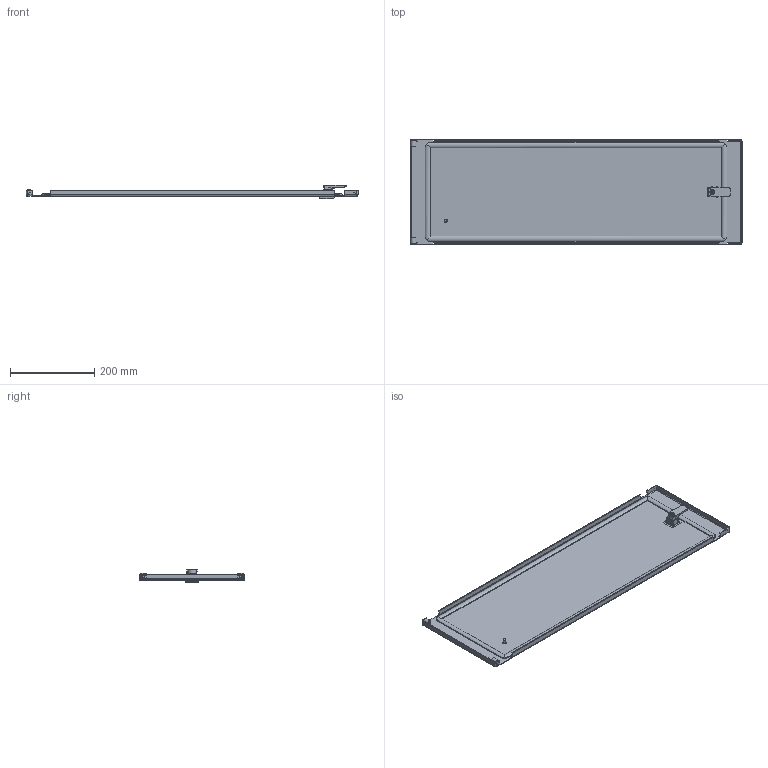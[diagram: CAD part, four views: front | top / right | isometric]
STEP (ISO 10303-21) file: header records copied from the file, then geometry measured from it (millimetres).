
FILE_DESCRIPTION(('STEP AP203'), '1');
FILE_NAME('Äâåðü ñåêöèîííàÿ 250õ800 ìì OptiBox M 419358 ÊÝÀÇ', '', ('UNSPECIFIED'), ('UNSPECIFIED'), 'C3D Converter', 'C3D Toolkit', '');
FILE_SCHEMA(('CONFIG_CONTROL_DESIGN'));
Length unit declared in the file: millimetre
Bounding box: 786.4 x 247 x 32.2 mm (x, y, z)
Volume: 533010.2 mm3; surface area: 500568.9 mm2
Topology: 6 solids, 6 shells, 355 faces, 928 edges, 588 vertices
Faces by surface type: plane 252, cylinder 92, bspline 8, cone 2, torus 1
Full cylindrical faces by diameter (mm): 0.75 x1, 1 x1, 3 x1, 5 x2, 6 x1, 7.5 x1, 9.3 x1, 10 x1, 20 x1
Entity records: 11864 total; most frequent: CARTESIAN_POINT 3095, ORIENTED_EDGE 1830, DIRECTION 1731, EDGE_CURVE 915, LINE 705, VECTOR 705, VERTEX_POINT 588, AXIS2_PLACEMENT_3D 513
